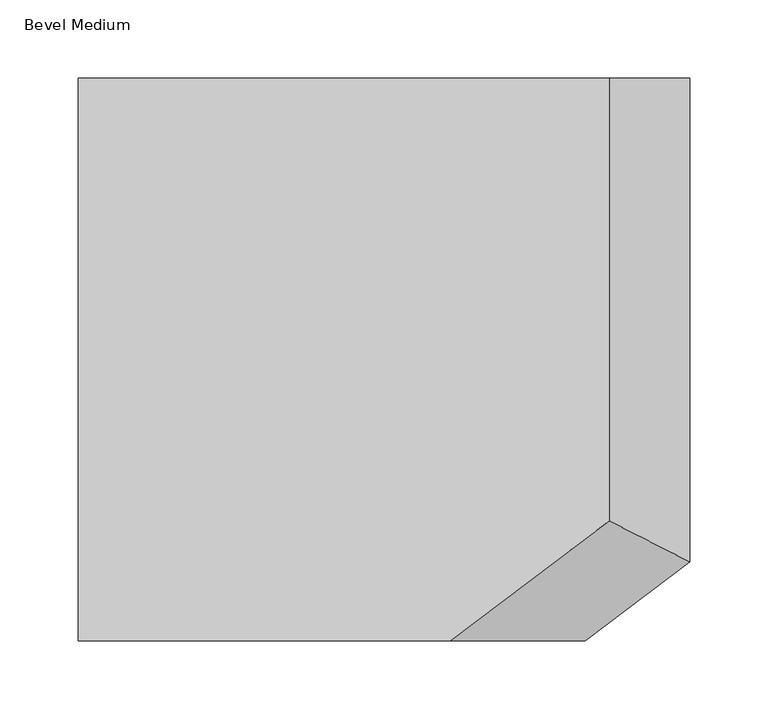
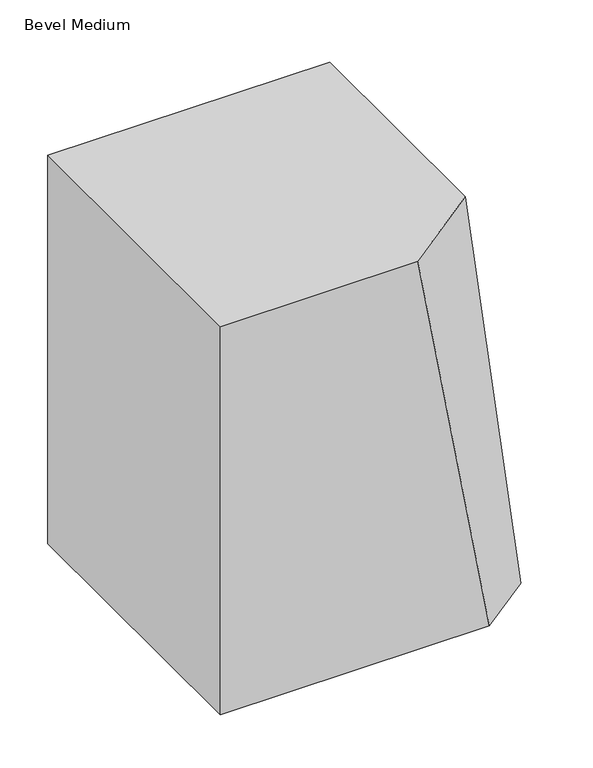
"""IFC4 building model written with IfcOpenShell, lengths in millimetres: furniture geometry, Coalesse_AM_Table_Occasional_Trees : Bevel Medium."""

from ifc_helpers import new_model, si_unit, point, frame, origin, place, context, project, spatial, circle_curve, ellipse_curve, trimmed, faceted_brep, source, transform, mapped, element, save
from ifc_brep_helpers import plane_surface, cylinder_surface, revolved_surface, advanced_brep


def bevel_medium_06367e77(model_context):
    return source(origin(), model_context, "Body", "SolidModel", [
        faceted_brep([(390.9979549, 0.0, 6.6675), (390.9979549, -309.3692501, 6.6675), (324.0097821, -359.8484589, 6.6675), (0.0, -359.8484589, 6.6675), (0.0, 0.0, 6.6675), (339.425942, 0.0, 501.3325), (0.0, 0.0, 501.3325), (0.0, -359.8484589, 501.3325), (237.825942, -359.8484589, 501.3325), (339.425942, -283.2873674, 501.3325)], [[[0, 1, 2, 3, 4]], [[5, 6, 7, 8, 9]], [[5, 9, 1, 0]], [[9, 8, 2, 1]], [[8, 7, 3, 2]], [[7, 6, 4, 3]], [[6, 5, 0, 4]]]),
        advanced_brep(
        [(353.2412281, -42.7323478, 10.7983194), (353.2412281, -33.2775254, 10.7983194), (353.2412281, -38.0049366, 10.7983194), (353.2412281, -42.7323478, 7.6962), (353.2412281, -33.2775254, 7.6962), (353.2412281, -47.4822021, 7.6962), (353.2412281, -28.5276711, 7.6962), (353.2412281, -47.4822021, 6.456241), (353.2412281, -28.5276711, 6.456241), (353.2412281, -50.6637083, 6.456241), (353.2412281, -25.346165, 6.456241), (353.2412281, -50.6637083, 1.822349), (353.2412281, -25.346165, 1.822349), (353.2412281, -48.8413593, 0.0), (353.2412281, -27.1685139, 0.0), (353.2412281, -38.0049366, 0.0)],
        [
            (0, 1, circle_curve(frame((353.2412281, -38.0049366, 10.7983194), z_axis=(0.0, 0.0, 1.0), x_axis=(0.0, 1.0, 0.0)), 4.7274112)),
            (1, 2),
            (2, 0),
            (1, 0, circle_curve(frame((353.2412281, -38.0049366, 10.7983194), z_axis=(0.0, 0.0, 1.0), x_axis=(0.0, 1.0, 0.0)), 4.7274112)),
            (3, 4, circle_curve(frame((353.2412281, -38.0049366, 7.6962), z_axis=(0.0, 0.0, 1.0), x_axis=(0.0, 1.0, 0.0)), 4.7274112)),
            (4, 1),
            (0, 3),
            (4, 3, circle_curve(frame((353.2412281, -38.0049366, 7.6962), z_axis=(0.0, 0.0, 1.0), x_axis=(0.0, 1.0, 0.0)), 4.7274112)),
            (5, 6, circle_curve(frame((353.2412281, -38.0049366, 7.6962), z_axis=(0.0, 0.0, 1.0), x_axis=(0.0, 1.0, 0.0)), 9.4772655)),
            (6, 4),
            (3, 5),
            (6, 5, circle_curve(frame((353.2412281, -38.0049366, 7.6962), z_axis=(0.0, 0.0, 1.0), x_axis=(0.0, 1.0, 0.0)), 9.4772655)),
            (7, 8, circle_curve(frame((353.2412281, -38.0049366, 6.456241), z_axis=(0.0, 0.0, 1.0), x_axis=(0.0, 1.0, 0.0)), 9.4772655)),
            (8, 6),
            (5, 7),
            (8, 7, circle_curve(frame((353.2412281, -38.0049366, 6.456241), z_axis=(0.0, 0.0, 1.0), x_axis=(0.0, 1.0, 0.0)), 9.4772655)),
            (9, 10, circle_curve(frame((353.2412281, -38.0049366, 6.456241), z_axis=(0.0, 0.0, 1.0), x_axis=(0.0, 1.0, 0.0)), 12.6587717)),
            (10, 8),
            (7, 9),
            (10, 9, circle_curve(frame((353.2412281, -38.0049366, 6.456241), z_axis=(0.0, 0.0, 1.0), x_axis=(0.0, 1.0, 0.0)), 12.6587717)),
            (11, 12, circle_curve(frame((353.2412281, -38.0049366, 1.822349), z_axis=(0.0, 0.0, 1.0), x_axis=(0.0, 1.0, 0.0)), 12.6587717)),
            (12, 10),
            (9, 11),
            (12, 11, circle_curve(frame((353.2412281, -38.0049366, 1.822349), z_axis=(0.0, 0.0, 1.0), x_axis=(0.0, 1.0, 0.0)), 12.6587717)),
            (13, 14, circle_curve(frame((353.2412281, -38.0049366, 0.0), z_axis=(0.0, 0.0, 1.0), x_axis=(0.0, 1.0, 0.0)), 10.8364227)),
            (14, 12, circle_curve(frame((353.2412281, -27.1685139, 1.822349), z_axis=(1.0, 0.0, 0.0), x_axis=(0.0, 1.0, 0.0)), 1.822349)),
            (11, 13, circle_curve(frame((353.2412281, -48.8413593, 1.822349), z_axis=(1.0, 0.0, 0.0), x_axis=(0.0, -1.0, 0.0)), 1.822349)),
            (14, 13, circle_curve(frame((353.2412281, -38.0049366, 0.0), z_axis=(0.0, 0.0, 1.0), x_axis=(0.0, 1.0, 0.0)), 10.8364227)),
            (15, 14),
            (13, 15),
        ],
        [
            plane_surface(frame((353.2412281, -38.0049366, 10.7983194), z_axis=(0.0, 0.0, 1.0), x_axis=(0.0, 1.0, 0.0))),
            cylinder_surface(frame((353.2412281, -38.0049366, 10.7983194), z_axis=(0.0, 0.0, -1.0), x_axis=(0.0, 1.0, 0.0)), 4.7274112),
            plane_surface(frame((353.2412281, -38.0049366, 7.6962), z_axis=(0.0, 0.0, 1.0), x_axis=(0.0, 1.0, 0.0))),
            cylinder_surface(frame((353.2412281, -38.0049366, 10.7983194), z_axis=(0.0, 0.0, -1.0), x_axis=(0.0, 1.0, 0.0)), 9.4772655),
            plane_surface(frame((353.2412281, -38.0049366, 6.456241), z_axis=(0.0, 0.0, 1.0), x_axis=(0.0, 1.0, 0.0))),
            cylinder_surface(frame((353.2412281, -38.0049366, 10.7983194), z_axis=(0.0, 0.0, -1.0), x_axis=(0.0, 1.0, 0.0)), 12.6587717),
            revolved_surface(trimmed(ellipse_curve(frame((353.2412281, -27.1685139, 1.822349), z_axis=(-1.0, 0.0, 0.0), x_axis=(0.0, 1.0, 0.0)), 1.822349, 1.822349), [point((353.2412281, -25.346165, 1.822349))], [point((353.2412281, -27.1685139, 0.0))], True, "CARTESIAN"), (353.2412281, -38.0049366, 10.7983194), (0.0, 0.0, -1.0)),
            plane_surface(frame((353.2412281, -38.0049366, 0.0), z_axis=(0.0, 0.0, -1.0), x_axis=(0.0, 1.0, 0.0))),
        ],
        [
            (0, [[1, 2, 3]]),
            (0, [[4, -3, -2]]),
            (1, [[5, 6, -1, 7]]),
            (1, [[8, -7, -4, -6]]),
            (2, [[9, 10, -5, 11]]),
            (2, [[12, -11, -8, -10]]),
            (3, [[13, 14, -9, 15]]),
            (3, [[16, -15, -12, -14]]),
            (4, [[17, 18, -13, 19]]),
            (4, [[20, -19, -16, -18]]),
            (5, [[21, 22, -17, 23]]),
            (5, [[24, -23, -20, -22]]),
            (6, [[25, 26, -21, 27]]),
            (6, [[28, -27, -24, -26]]),
            (7, [[29, -25, 30]]),
            (7, [[-30, -28, -29]]),
        ],
    ),
        advanced_brep(
        [(38.2941426, -48.8413593, 0.0), (38.2941426, -27.1685139, 0.0), (38.2941426, -38.0049366, 0.0), (38.2941426, -50.6637083, 1.822349), (38.2941426, -25.346165, 1.822349), (38.2941426, -50.6637083, 6.456241), (38.2941426, -25.346165, 6.456241), (38.2941426, -47.4822021, 6.456241), (38.2941426, -28.5276711, 6.456241), (38.2941426, -47.4822021, 7.6962), (38.2941426, -28.5276711, 7.6962), (38.2941426, -42.7323478, 7.6962), (38.2941426, -33.2775254, 7.6962), (38.2941426, -42.7323478, 10.7983194), (38.2941426, -33.2775254, 10.7983194), (38.2941426, -38.0049366, 10.7983194)],
        [
            (0, 1, circle_curve(frame((38.2941426, -38.0049366, 0.0), z_axis=(0.0, 0.0, -1.0), x_axis=(0.0, 1.0, 0.0)), 10.8364227)),
            (1, 2),
            (2, 0),
            (1, 0, circle_curve(frame((38.2941426, -38.0049366, 0.0), z_axis=(0.0, 0.0, -1.0), x_axis=(0.0, 1.0, 0.0)), 10.8364227)),
            (3, 4, circle_curve(frame((38.2941426, -38.0049366, 1.822349), z_axis=(0.0, 0.0, -1.0), x_axis=(0.0, 1.0, 0.0)), 12.6587717)),
            (4, 1, circle_curve(frame((38.2941426, -27.1685139, 1.822349), z_axis=(-1.0, 0.0, 0.0), x_axis=(0.0, 1.0, 0.0)), 1.822349)),
            (0, 3, circle_curve(frame((38.2941426, -48.8413593, 1.822349), z_axis=(-1.0, 0.0, 0.0), x_axis=(0.0, -1.0, 0.0)), 1.822349)),
            (4, 3, circle_curve(frame((38.2941426, -38.0049366, 1.822349), z_axis=(0.0, 0.0, -1.0), x_axis=(0.0, 1.0, 0.0)), 12.6587717)),
            (5, 6, circle_curve(frame((38.2941426, -38.0049366, 6.456241), z_axis=(0.0, 0.0, -1.0), x_axis=(0.0, 1.0, 0.0)), 12.6587717)),
            (6, 4),
            (3, 5),
            (6, 5, circle_curve(frame((38.2941426, -38.0049366, 6.456241), z_axis=(0.0, 0.0, -1.0), x_axis=(0.0, 1.0, 0.0)), 12.6587717)),
            (7, 8, circle_curve(frame((38.2941426, -38.0049366, 6.456241), z_axis=(0.0, 0.0, -1.0), x_axis=(0.0, 1.0, 0.0)), 9.4772655)),
            (8, 6),
            (5, 7),
            (8, 7, circle_curve(frame((38.2941426, -38.0049366, 6.456241), z_axis=(0.0, 0.0, -1.0), x_axis=(0.0, 1.0, 0.0)), 9.4772655)),
            (9, 10, circle_curve(frame((38.2941426, -38.0049366, 7.6962), z_axis=(0.0, 0.0, -1.0), x_axis=(0.0, 1.0, 0.0)), 9.4772655)),
            (10, 8),
            (7, 9),
            (10, 9, circle_curve(frame((38.2941426, -38.0049366, 7.6962), z_axis=(0.0, 0.0, -1.0), x_axis=(0.0, 1.0, 0.0)), 9.4772655)),
            (11, 12, circle_curve(frame((38.2941426, -38.0049366, 7.6962), z_axis=(0.0, 0.0, -1.0), x_axis=(0.0, 1.0, 0.0)), 4.7274112)),
            (12, 10),
            (9, 11),
            (12, 11, circle_curve(frame((38.2941426, -38.0049366, 7.6962), z_axis=(0.0, 0.0, -1.0), x_axis=(0.0, 1.0, 0.0)), 4.7274112)),
            (13, 14, circle_curve(frame((38.2941426, -38.0049366, 10.7983194), z_axis=(0.0, 0.0, -1.0), x_axis=(0.0, 1.0, 0.0)), 4.7274112)),
            (14, 12),
            (11, 13),
            (14, 13, circle_curve(frame((38.2941426, -38.0049366, 10.7983194), z_axis=(0.0, 0.0, -1.0), x_axis=(0.0, 1.0, 0.0)), 4.7274112)),
            (15, 14),
            (13, 15),
        ],
        [
            plane_surface(frame((38.2941426, -38.0049366, 0.0), z_axis=(0.0, 0.0, -1.0), x_axis=(0.0, 1.0, 0.0))),
            revolved_surface(trimmed(ellipse_curve(frame((38.2941426, -27.1685139, 1.822349), z_axis=(1.0, 0.0, 0.0), x_axis=(0.0, 1.0, 0.0)), 1.822349, 1.822349), [point((38.2941426, -27.1685139, 0.0))], [point((38.2941426, -25.346165, 1.822349))], True, "CARTESIAN"), (38.2941426, -38.0049366, 10.7983194), (0.0, 0.0, 1.0)),
            cylinder_surface(frame((38.2941426, -38.0049366, 10.7983194), z_axis=(0.0, 0.0, 1.0), x_axis=(0.0, 1.0, 0.0)), 12.6587717),
            plane_surface(frame((38.2941426, -38.0049366, 6.456241), z_axis=(0.0, 0.0, 1.0), x_axis=(0.0, 1.0, 0.0))),
            cylinder_surface(frame((38.2941426, -38.0049366, 10.7983194), z_axis=(0.0, 0.0, 1.0), x_axis=(0.0, 1.0, 0.0)), 9.4772655),
            plane_surface(frame((38.2941426, -38.0049366, 7.6962), z_axis=(0.0, 0.0, 1.0), x_axis=(0.0, 1.0, 0.0))),
            cylinder_surface(frame((38.2941426, -38.0049366, 10.7983194), z_axis=(0.0, 0.0, 1.0), x_axis=(0.0, 1.0, 0.0)), 4.7274112),
            plane_surface(frame((38.2941426, -38.0049366, 10.7983194), z_axis=(0.0, 0.0, 1.0), x_axis=(0.0, 1.0, 0.0))),
        ],
        [
            (0, [[1, 2, 3]]),
            (0, [[4, -3, -2]]),
            (1, [[5, 6, -1, 7]]),
            (1, [[8, -7, -4, -6]]),
            (2, [[9, 10, -5, 11]]),
            (2, [[12, -11, -8, -10]]),
            (3, [[13, 14, -9, 15]]),
            (3, [[16, -15, -12, -14]]),
            (4, [[17, 18, -13, 19]]),
            (4, [[20, -19, -16, -18]]),
            (5, [[21, 22, -17, 23]]),
            (5, [[24, -23, -20, -22]]),
            (6, [[25, 26, -21, 27]]),
            (6, [[28, -27, -24, -26]]),
            (7, [[29, -25, 30]]),
            (7, [[-30, -28, -29]]),
        ],
    ),
        advanced_brep(
        [(316.8042074, -330.8635978, 10.7983194), (316.8042074, -321.4087754, 10.7983194), (316.8042074, -326.1361866, 10.7983194), (316.8042074, -330.8635978, 7.6962), (316.8042074, -321.4087754, 7.6962), (316.8042074, -335.6134521, 7.6962), (316.8042074, -316.6589211, 7.6962), (316.8042074, -335.6134521, 6.456241), (316.8042074, -316.6589211, 6.456241), (316.8042074, -338.7949583, 6.456241), (316.8042074, -313.477415, 6.456241), (316.8042074, -338.7949583, 1.822349), (316.8042074, -313.477415, 1.822349), (316.8042074, -336.9726093, 0.0), (316.8042074, -315.2997639, 0.0), (316.8042074, -326.1361866, 0.0)],
        [
            (0, 1, circle_curve(frame((316.8042074, -326.1361866, 10.7983194), z_axis=(0.0, 0.0, 1.0), x_axis=(0.0, 1.0, 0.0)), 4.7274112)),
            (1, 2),
            (2, 0),
            (1, 0, circle_curve(frame((316.8042074, -326.1361866, 10.7983194), z_axis=(0.0, 0.0, 1.0), x_axis=(0.0, 1.0, 0.0)), 4.7274112)),
            (3, 4, circle_curve(frame((316.8042074, -326.1361866, 7.6962), z_axis=(0.0, 0.0, 1.0), x_axis=(0.0, 1.0, 0.0)), 4.7274112)),
            (4, 1),
            (0, 3),
            (4, 3, circle_curve(frame((316.8042074, -326.1361866, 7.6962), z_axis=(0.0, 0.0, 1.0), x_axis=(0.0, 1.0, 0.0)), 4.7274112)),
            (5, 6, circle_curve(frame((316.8042074, -326.1361866, 7.6962), z_axis=(0.0, 0.0, 1.0), x_axis=(0.0, 1.0, 0.0)), 9.4772655)),
            (6, 4),
            (3, 5),
            (6, 5, circle_curve(frame((316.8042074, -326.1361866, 7.6962), z_axis=(0.0, 0.0, 1.0), x_axis=(0.0, 1.0, 0.0)), 9.4772655)),
            (7, 8, circle_curve(frame((316.8042074, -326.1361866, 6.456241), z_axis=(0.0, 0.0, 1.0), x_axis=(0.0, 1.0, 0.0)), 9.4772655)),
            (8, 6),
            (5, 7),
            (8, 7, circle_curve(frame((316.8042074, -326.1361866, 6.456241), z_axis=(0.0, 0.0, 1.0), x_axis=(0.0, 1.0, 0.0)), 9.4772655)),
            (9, 10, circle_curve(frame((316.8042074, -326.1361866, 6.456241), z_axis=(0.0, 0.0, 1.0), x_axis=(0.0, 1.0, 0.0)), 12.6587717)),
            (10, 8),
            (7, 9),
            (10, 9, circle_curve(frame((316.8042074, -326.1361866, 6.456241), z_axis=(0.0, 0.0, 1.0), x_axis=(0.0, 1.0, 0.0)), 12.6587717)),
            (11, 12, circle_curve(frame((316.8042074, -326.1361866, 1.822349), z_axis=(0.0, 0.0, 1.0), x_axis=(0.0, 1.0, 0.0)), 12.6587717)),
            (12, 10),
            (9, 11),
            (12, 11, circle_curve(frame((316.8042074, -326.1361866, 1.822349), z_axis=(0.0, 0.0, 1.0), x_axis=(0.0, 1.0, 0.0)), 12.6587717)),
            (13, 14, circle_curve(frame((316.8042074, -326.1361866, 0.0), z_axis=(0.0, 0.0, 1.0), x_axis=(0.0, 1.0, 0.0)), 10.8364227)),
            (14, 12, circle_curve(frame((316.8042074, -315.2997639, 1.822349), z_axis=(1.0, 0.0, 0.0), x_axis=(0.0, 1.0, 0.0)), 1.822349)),
            (11, 13, circle_curve(frame((316.8042074, -336.9726093, 1.822349), z_axis=(1.0, 0.0, 0.0), x_axis=(0.0, -1.0, 0.0)), 1.822349)),
            (14, 13, circle_curve(frame((316.8042074, -326.1361866, 0.0), z_axis=(0.0, 0.0, 1.0), x_axis=(0.0, 1.0, 0.0)), 10.8364227)),
            (15, 14),
            (13, 15),
        ],
        [
            plane_surface(frame((316.8042074, -326.1361866, 10.7983194), z_axis=(0.0, 0.0, 1.0), x_axis=(0.0, 1.0, 0.0))),
            cylinder_surface(frame((316.8042074, -326.1361866, 10.7983194), z_axis=(0.0, 0.0, -1.0), x_axis=(0.0, 1.0, 0.0)), 4.7274112),
            plane_surface(frame((316.8042074, -326.1361866, 7.6962), z_axis=(0.0, 0.0, 1.0), x_axis=(0.0, 1.0, 0.0))),
            cylinder_surface(frame((316.8042074, -326.1361866, 10.7983194), z_axis=(0.0, 0.0, -1.0), x_axis=(0.0, 1.0, 0.0)), 9.4772655),
            plane_surface(frame((316.8042074, -326.1361866, 6.456241), z_axis=(0.0, 0.0, 1.0), x_axis=(0.0, 1.0, 0.0))),
            cylinder_surface(frame((316.8042074, -326.1361866, 10.7983194), z_axis=(0.0, 0.0, -1.0), x_axis=(0.0, 1.0, 0.0)), 12.6587717),
            revolved_surface(trimmed(ellipse_curve(frame((316.8042074, -315.2997639, 1.822349), z_axis=(-1.0, 0.0, 0.0), x_axis=(0.0, 1.0, 0.0)), 1.822349, 1.822349), [point((316.8042074, -313.477415, 1.822349))], [point((316.8042074, -315.2997639, 0.0))], True, "CARTESIAN"), (316.8042074, -326.1361866, 10.7983194), (0.0, 0.0, -1.0)),
            plane_surface(frame((316.8042074, -326.1361866, 0.0), z_axis=(0.0, 0.0, -1.0), x_axis=(0.0, 1.0, 0.0))),
        ],
        [
            (0, [[1, 2, 3]]),
            (0, [[4, -3, -2]]),
            (1, [[5, 6, -1, 7]]),
            (1, [[8, -7, -4, -6]]),
            (2, [[9, 10, -5, 11]]),
            (2, [[12, -11, -8, -10]]),
            (3, [[13, 14, -9, 15]]),
            (3, [[16, -15, -12, -14]]),
            (4, [[17, 18, -13, 19]]),
            (4, [[20, -19, -16, -18]]),
            (5, [[21, 22, -17, 23]]),
            (5, [[24, -23, -20, -22]]),
            (6, [[25, 26, -21, 27]]),
            (6, [[28, -27, -24, -26]]),
            (7, [[29, -25, 30]]),
            (7, [[-30, -28, -29]]),
        ],
    ),
        advanced_brep(
        [(40.6753926, -336.9726093, 0.0), (40.6753926, -315.2997639, 0.0), (40.6753926, -326.1361866, 0.0), (40.6753926, -338.7949583, 1.822349), (40.6753926, -313.477415, 1.822349), (40.6753926, -338.7949583, 6.456241), (40.6753926, -313.477415, 6.456241), (40.6753926, -335.6134521, 6.456241), (40.6753926, -316.6589211, 6.456241), (40.6753926, -335.6134521, 7.6962), (40.6753926, -316.6589211, 7.6962), (40.6753926, -330.8635978, 7.6962), (40.6753926, -321.4087754, 7.6962), (40.6753926, -330.8635978, 10.7983194), (40.6753926, -321.4087754, 10.7983194), (40.6753926, -326.1361866, 10.7983194)],
        [
            (0, 1, circle_curve(frame((40.6753926, -326.1361866, 0.0), z_axis=(0.0, 0.0, -1.0), x_axis=(0.0, 1.0, 0.0)), 10.8364227)),
            (1, 2),
            (2, 0),
            (1, 0, circle_curve(frame((40.6753926, -326.1361866, 0.0), z_axis=(0.0, 0.0, -1.0), x_axis=(0.0, 1.0, 0.0)), 10.8364227)),
            (3, 4, circle_curve(frame((40.6753926, -326.1361866, 1.822349), z_axis=(0.0, 0.0, -1.0), x_axis=(0.0, 1.0, 0.0)), 12.6587717)),
            (4, 1, circle_curve(frame((40.6753926, -315.2997639, 1.822349), z_axis=(-1.0, 0.0, 0.0), x_axis=(0.0, 1.0, 0.0)), 1.822349)),
            (0, 3, circle_curve(frame((40.6753926, -336.9726093, 1.822349), z_axis=(-1.0, 0.0, 0.0), x_axis=(0.0, -1.0, 0.0)), 1.822349)),
            (4, 3, circle_curve(frame((40.6753926, -326.1361866, 1.822349), z_axis=(0.0, 0.0, -1.0), x_axis=(0.0, 1.0, 0.0)), 12.6587717)),
            (5, 6, circle_curve(frame((40.6753926, -326.1361866, 6.456241), z_axis=(0.0, 0.0, -1.0), x_axis=(0.0, 1.0, 0.0)), 12.6587717)),
            (6, 4),
            (3, 5),
            (6, 5, circle_curve(frame((40.6753926, -326.1361866, 6.456241), z_axis=(0.0, 0.0, -1.0), x_axis=(0.0, 1.0, 0.0)), 12.6587717)),
            (7, 8, circle_curve(frame((40.6753926, -326.1361866, 6.456241), z_axis=(0.0, 0.0, -1.0), x_axis=(0.0, 1.0, 0.0)), 9.4772655)),
            (8, 6),
            (5, 7),
            (8, 7, circle_curve(frame((40.6753926, -326.1361866, 6.456241), z_axis=(0.0, 0.0, -1.0), x_axis=(0.0, 1.0, 0.0)), 9.4772655)),
            (9, 10, circle_curve(frame((40.6753926, -326.1361866, 7.6962), z_axis=(0.0, 0.0, -1.0), x_axis=(0.0, 1.0, 0.0)), 9.4772655)),
            (10, 8),
            (7, 9),
            (10, 9, circle_curve(frame((40.6753926, -326.1361866, 7.6962), z_axis=(0.0, 0.0, -1.0), x_axis=(0.0, 1.0, 0.0)), 9.4772655)),
            (11, 12, circle_curve(frame((40.6753926, -326.1361866, 7.6962), z_axis=(0.0, 0.0, -1.0), x_axis=(0.0, 1.0, 0.0)), 4.7274112)),
            (12, 10),
            (9, 11),
            (12, 11, circle_curve(frame((40.6753926, -326.1361866, 7.6962), z_axis=(0.0, 0.0, -1.0), x_axis=(0.0, 1.0, 0.0)), 4.7274112)),
            (13, 14, circle_curve(frame((40.6753926, -326.1361866, 10.7983194), z_axis=(0.0, 0.0, -1.0), x_axis=(0.0, 1.0, 0.0)), 4.7274112)),
            (14, 12),
            (11, 13),
            (14, 13, circle_curve(frame((40.6753926, -326.1361866, 10.7983194), z_axis=(0.0, 0.0, -1.0), x_axis=(0.0, 1.0, 0.0)), 4.7274112)),
            (15, 14),
            (13, 15),
        ],
        [
            plane_surface(frame((40.6753926, -326.1361866, 0.0), z_axis=(0.0, 0.0, -1.0), x_axis=(0.0, 1.0, 0.0))),
            revolved_surface(trimmed(ellipse_curve(frame((40.6753926, -315.2997639, 1.822349), z_axis=(1.0, 0.0, 0.0), x_axis=(0.0, 1.0, 0.0)), 1.822349, 1.822349), [point((40.6753926, -315.2997639, 0.0))], [point((40.6753926, -313.477415, 1.822349))], True, "CARTESIAN"), (40.6753926, -326.1361866, 10.7983194), (0.0, 0.0, 1.0)),
            cylinder_surface(frame((40.6753926, -326.1361866, 10.7983194), z_axis=(0.0, 0.0, 1.0), x_axis=(0.0, 1.0, 0.0)), 12.6587717),
            plane_surface(frame((40.6753926, -326.1361866, 6.456241), z_axis=(0.0, 0.0, 1.0), x_axis=(0.0, 1.0, 0.0))),
            cylinder_surface(frame((40.6753926, -326.1361866, 10.7983194), z_axis=(0.0, 0.0, 1.0), x_axis=(0.0, 1.0, 0.0)), 9.4772655),
            plane_surface(frame((40.6753926, -326.1361866, 7.6962), z_axis=(0.0, 0.0, 1.0), x_axis=(0.0, 1.0, 0.0))),
            cylinder_surface(frame((40.6753926, -326.1361866, 10.7983194), z_axis=(0.0, 0.0, 1.0), x_axis=(0.0, 1.0, 0.0)), 4.7274112),
            plane_surface(frame((40.6753926, -326.1361866, 10.7983194), z_axis=(0.0, 0.0, 1.0), x_axis=(0.0, 1.0, 0.0))),
        ],
        [
            (0, [[1, 2, 3]]),
            (0, [[4, -3, -2]]),
            (1, [[5, 6, -1, 7]]),
            (1, [[8, -7, -4, -6]]),
            (2, [[9, 10, -5, 11]]),
            (2, [[12, -11, -8, -10]]),
            (3, [[13, 14, -9, 15]]),
            (3, [[16, -15, -12, -14]]),
            (4, [[17, 18, -13, 19]]),
            (4, [[20, -19, -16, -18]]),
            (5, [[21, 22, -17, 23]]),
            (5, [[24, -23, -20, -22]]),
            (6, [[25, 26, -21, 27]]),
            (6, [[28, -27, -24, -26]]),
            (7, [[29, -25, 30]]),
            (7, [[-30, -28, -29]]),
        ],
    ),
    ])


if __name__ == "__main__":
    model = new_model("IFC4")
    model_context = context("Model", 3, world=origin())
    ifc_project = project(units=[si_unit("LENGTHUNIT", "METRE", prefix="MILLI")], contexts=[model_context])
    site = spatial("IfcSite", under=ifc_project)
    building = spatial("IfcBuilding", under=site)
    placement = place(None, origin())
    bevel_medium_shape = bevel_medium_06367e77(model_context)
    element("IfcFurniture", 1, ObjectType="Coalesse_AM_Table_Occasional_Trees : Bevel Medium", at=placement, inside=building, context=model_context, shape_type="MappedRepresentation", body=[
        mapped(bevel_medium_shape, transform((0.0, 0.0, 0.0), x_axis=(1.0, 0.0, 0.0), y_axis=(0.0, 1.0, 0.0), z_axis=(0.0, 0.0, 1.0))),
    ])
    save(model, "model.ifc")
